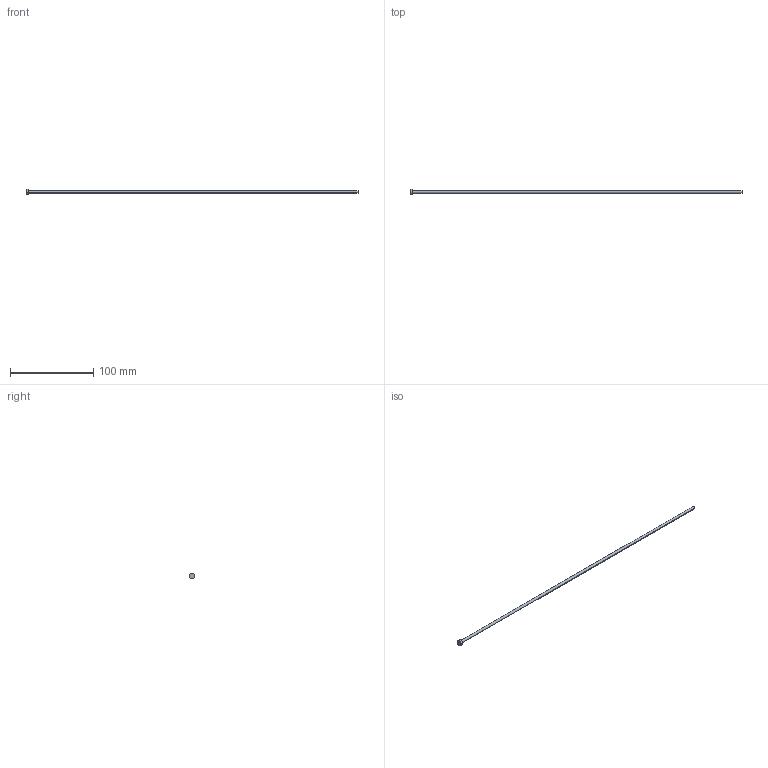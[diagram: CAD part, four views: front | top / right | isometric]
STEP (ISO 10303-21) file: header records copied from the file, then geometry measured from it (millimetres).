
FILE_DESCRIPTION (( 'STEP AP214' ), '1' );
FILE_NAME ('A-3,5x400.STEP', '2020-05-28T17:31:24', ( 'August' ), ( '' ), 'SwSTEP 2.0', 'SolidWorks 2018', '' );
FILE_SCHEMA (( 'AUTOMOTIVE_DESIGN' ));
Length unit declared in the file: millimetre
Products named in the file (1): A-3,5x400
Bounding box: 400 x 7 x 7 mm (x, y, z)
Volume: 3935.3 mm3; surface area: 4506.8 mm2
Topology: 1 solids, 1 shells, 9 faces, 16 edges, 10 vertices
Faces by surface type: cylinder 4, plane 3, torus 2
Entity records: 260 total; most frequent: DIRECTION 48, CARTESIAN_POINT 36, ORIENTED_EDGE 32, AXIS2_PLACEMENT_3D 22, EDGE_CURVE 16, CIRCLE 12, EDGE_LOOP 10, VERTEX_POINT 10
